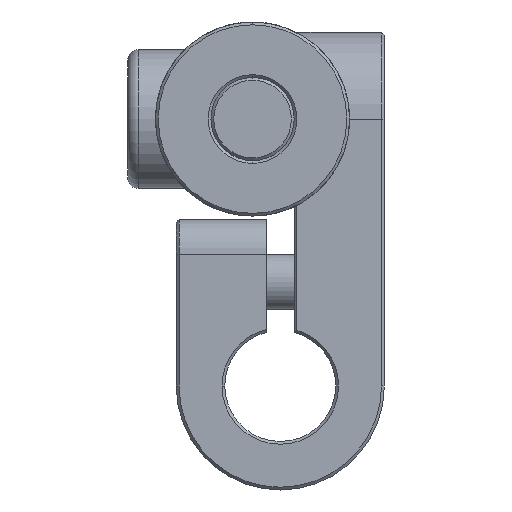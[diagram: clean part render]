
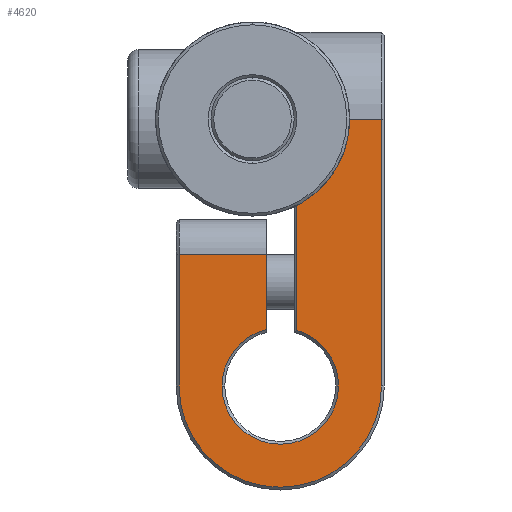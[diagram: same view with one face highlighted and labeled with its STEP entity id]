
A CAD part, front view. The second image highlights one B-rep face of the part: STEP entity #4620.
In plain terms, the highlighted planar face has unit normal (0, -1, 0).
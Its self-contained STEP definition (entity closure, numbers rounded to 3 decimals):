
#2 = CARTESIAN_POINT ( 'NONE',  ( 3.594, 56.074, 21. ) ) ;
#85 = VECTOR ( 'NONE', #8924, 1000. ) ;
#229 = VECTOR ( 'NONE', #9524, 1000. ) ;
#578 = DIRECTION ( 'NONE',  ( -1., 0., 0. ) ) ;
#640 = VECTOR ( 'NONE', #916, 1000. ) ;
#916 = DIRECTION ( 'NONE',  ( 0., 0., 1. ) ) ;
#1022 = AXIS2_PLACEMENT_3D ( 'NONE', #12067, #5395, #13199 ) ;
#1207 = AXIS2_PLACEMENT_3D ( 'NONE', #5583, #13385, #6692 ) ;
#1366 = CIRCLE ( 'NONE', #14416, 4.2 ) ;
#1620 = CARTESIAN_POINT ( 'NONE',  ( -3.706, 56.074, 11.25 ) ) ;
#1934 = ORIENTED_EDGE ( 'NONE', *, *, #13531, .T. ) ;
#2278 = LINE ( 'NONE', #12427, #7910 ) ;
#2671 = CARTESIAN_POINT ( 'NONE',  ( -2.506, 56.074, 21. ) ) ;
#2963 = DIRECTION ( 'NONE',  ( 0., 0., 1. ) ) ;
#3937 = CARTESIAN_POINT ( 'NONE',  ( -7.906, 56.074, 1.75 ) ) ;
#3993 = ORIENTED_EDGE ( 'NONE', *, *, #8499, .T. ) ;
#4212 = PLANE ( 'NONE',  #1022 ) ;
#4483 = EDGE_CURVE ( 'NONE', #5185, #8130, #6253, .T. ) ;
#4620 = ADVANCED_FACE ( 'NONE', ( #12513 ), #4212, .T. ) ;
#4642 = EDGE_LOOP ( 'NONE', ( #1934, #3993, #12750, #6747, #11301, #11684, #7241, #8361, #12477, #14397 ) ) ;
#4997 = DIRECTION ( 'NONE',  ( 0., 1., 0. ) ) ;
#5185 = VERTEX_POINT ( 'NONE', #13731 ) ;
#5395 = DIRECTION ( 'NONE',  ( 0., -1., 0. ) ) ;
#5583 = CARTESIAN_POINT ( 'NONE',  ( -3.706, 56.074, 1.75 ) ) ;
#5751 = LINE ( 'NONE', #11820, #8347 ) ;
#5910 = VERTEX_POINT ( 'NONE', #11302 ) ;
#6109 = CARTESIAN_POINT ( 'NONE',  ( -3.706, 56.074, 1.75 ) ) ;
#6122 = LINE ( 'NONE', #14445, #85 ) ;
#6253 = LINE ( 'NONE', #1620, #229 ) ;
#6321 = VECTOR ( 'NONE', #2963, 1000. ) ;
#6357 = CARTESIAN_POINT ( 'NONE',  ( -3.706, 56.074, 1.75 ) ) ;
#6496 = VERTEX_POINT ( 'NONE', #2671 ) ;
#6680 = LINE ( 'NONE', #10757, #640 ) ;
#6692 = DIRECTION ( 'NONE',  ( -1., 0., 0. ) ) ;
#6747 = ORIENTED_EDGE ( 'NONE', *, *, #8411, .T. ) ;
#7214 = DIRECTION ( 'NONE',  ( -1., 0., 0. ) ) ;
#7241 = ORIENTED_EDGE ( 'NONE', *, *, #4483, .T. ) ;
#7463 = DIRECTION ( 'NONE',  ( -1., 0., 0. ) ) ;
#7665 = VERTEX_POINT ( 'NONE', #7791 ) ;
#7791 = CARTESIAN_POINT ( 'NONE',  ( 0.494, 56.074, 1.75 ) ) ;
#7910 = VECTOR ( 'NONE', #13570, 1000. ) ;
#8130 = VERTEX_POINT ( 'NONE', #8510 ) ;
#8141 = EDGE_CURVE ( 'NONE', #9388, #9896, #10412, .T. ) ;
#8157 = CARTESIAN_POINT ( 'NONE',  ( 3.594, 56.074, 1.75 ) ) ;
#8347 = VECTOR ( 'NONE', #578, 1000. ) ;
#8361 = ORIENTED_EDGE ( 'NONE', *, *, #10936, .T. ) ;
#8411 = EDGE_CURVE ( 'NONE', #7665, #12256, #12671, .T. ) ;
#8499 = EDGE_CURVE ( 'NONE', #6496, #5910, #2278, .T. ) ;
#8505 = CARTESIAN_POINT ( 'NONE',  ( -4.706, 56.074, 5.829 ) ) ;
#8510 = CARTESIAN_POINT ( 'NONE',  ( -11.006, 56.074, 11.25 ) ) ;
#8891 = EDGE_CURVE ( 'NONE', #5910, #7665, #1366, .T. ) ;
#8924 = DIRECTION ( 'NONE',  ( 0., 0., -1. ) ) ;
#9025 = EDGE_CURVE ( 'NONE', #9896, #11981, #6680, .T. ) ;
#9388 = VERTEX_POINT ( 'NONE', #14179 ) ;
#9524 = DIRECTION ( 'NONE',  ( -1., 0., 0. ) ) ;
#9548 = CIRCLE ( 'NONE', #10424, 4.2 ) ;
#9682 = CARTESIAN_POINT ( 'NONE',  ( -4.706, 56.074, 13.75 ) ) ;
#9896 = VERTEX_POINT ( 'NONE', #8157 ) ;
#10298 = EDGE_CURVE ( 'NONE', #10919, #5185, #12235, .T. ) ;
#10412 = CIRCLE ( 'NONE', #13107, 7.3 ) ;
#10424 = AXIS2_PLACEMENT_3D ( 'NONE', #11711, #4997, #12834 ) ;
#10757 = CARTESIAN_POINT ( 'NONE',  ( 3.594, 56.074, 1.75 ) ) ;
#10919 = VERTEX_POINT ( 'NONE', #8505 ) ;
#10936 = EDGE_CURVE ( 'NONE', #8130, #9388, #6122, .T. ) ;
#11301 = ORIENTED_EDGE ( 'NONE', *, *, #14206, .T. ) ;
#11302 = CARTESIAN_POINT ( 'NONE',  ( -2.506, 56.074, 5.775 ) ) ;
#11684 = ORIENTED_EDGE ( 'NONE', *, *, #10298, .T. ) ;
#11711 = CARTESIAN_POINT ( 'NONE',  ( -3.706, 56.074, 1.75 ) ) ;
#11820 = CARTESIAN_POINT ( 'NONE',  ( -3.706, 56.074, 21. ) ) ;
#11981 = VERTEX_POINT ( 'NONE', #2 ) ;
#12067 = CARTESIAN_POINT ( 'NONE',  ( -3.706, 56.074, 1.75 ) ) ;
#12235 = LINE ( 'NONE', #9682, #6321 ) ;
#12256 = VERTEX_POINT ( 'NONE', #3937 ) ;
#12427 = CARTESIAN_POINT ( 'NONE',  ( -2.506, 56.074, 1.75 ) ) ;
#12477 = ORIENTED_EDGE ( 'NONE', *, *, #8141, .T. ) ;
#12513 = FACE_OUTER_BOUND ( 'NONE', #4642, .T. ) ;
#12671 = CIRCLE ( 'NONE', #1207, 4.2 ) ;
#12750 = ORIENTED_EDGE ( 'NONE', *, *, #8891, .T. ) ;
#12834 = DIRECTION ( 'NONE',  ( -1., 0., 0. ) ) ;
#13107 = AXIS2_PLACEMENT_3D ( 'NONE', #6357, #14161, #7463 ) ;
#13199 = DIRECTION ( 'NONE',  ( -1., 0., 0. ) ) ;
#13385 = DIRECTION ( 'NONE',  ( 0., 1., 0. ) ) ;
#13531 = EDGE_CURVE ( 'NONE', #11981, #6496, #5751, .T. ) ;
#13570 = DIRECTION ( 'NONE',  ( 0., 0., -1. ) ) ;
#13731 = CARTESIAN_POINT ( 'NONE',  ( -4.706, 56.074, 11.25 ) ) ;
#13898 = DIRECTION ( 'NONE',  ( 0., 1., 0. ) ) ;
#14161 = DIRECTION ( 'NONE',  ( 0., -1., 0. ) ) ;
#14179 = CARTESIAN_POINT ( 'NONE',  ( -11.006, 56.074, 1.75 ) ) ;
#14206 = EDGE_CURVE ( 'NONE', #12256, #10919, #9548, .T. ) ;
#14397 = ORIENTED_EDGE ( 'NONE', *, *, #9025, .T. ) ;
#14416 = AXIS2_PLACEMENT_3D ( 'NONE', #6109, #13898, #7214 ) ;
#14445 = CARTESIAN_POINT ( 'NONE',  ( -11.006, 56.074, 1.75 ) ) ;
